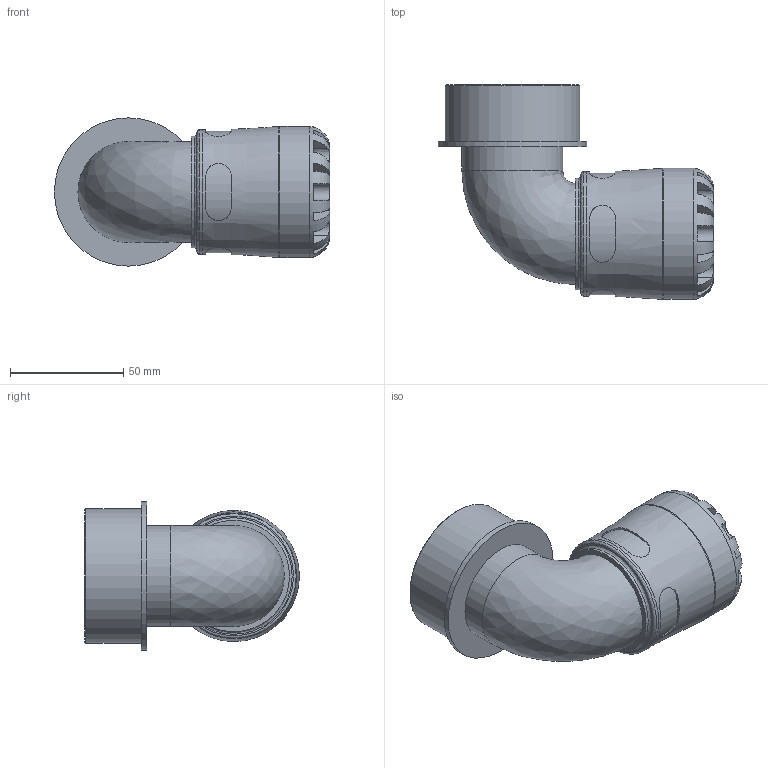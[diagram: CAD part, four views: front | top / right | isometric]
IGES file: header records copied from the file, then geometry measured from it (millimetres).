
Global section: file name: 108500032020_198500032020.ipt; native system: Autodesk Inventor 2015; preprocessor: unknown; author: KIM; date: 20190127.091523; units: millimetre
Bounding box: 121.79 x 95 x 65.58 mm (x, y, z)
Volume: 151297.5 mm3; surface area: 48764.1 mm2
Topology: 1 solids, 1 shells, 110 faces, 276 edges, 177 vertices
Faces by surface type: plane 64, revolution 27, cylinder 18, cone 1
Full cylindrical faces by diameter (mm): 44.711 x1, 49.3 x1, 55.1 x1, 58 x1, 59.614 x1, 65.575 x1
